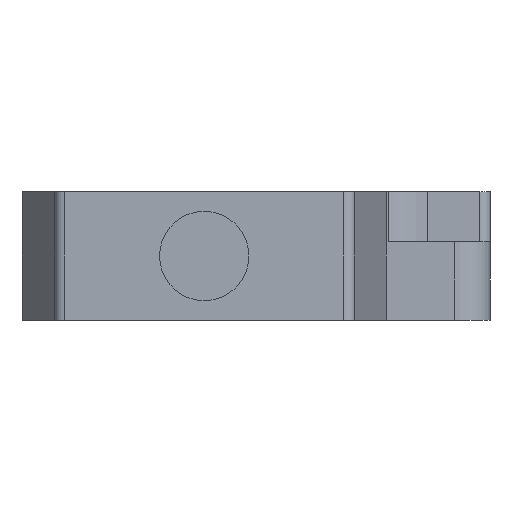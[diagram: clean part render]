
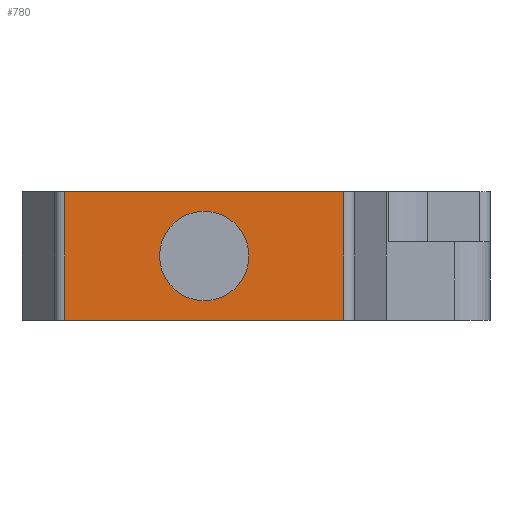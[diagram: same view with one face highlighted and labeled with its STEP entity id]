
A CAD part, front view. The second image highlights one B-rep face of the part: STEP entity #780.
In plain terms, the highlighted planar face has unit normal (0, -1, 0).
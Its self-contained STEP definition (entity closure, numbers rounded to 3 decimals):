
#17=FACE_BOUND('',#105,.T.);
#29=PLANE('',#836);
#57=FACE_OUTER_BOUND('',#104,.T.);
#104=EDGE_LOOP('',(#557,#558,#559,#560));
#105=EDGE_LOOP('',(#561));
#158=LINE('',#1152,#234);
#160=LINE('',#1158,#236);
#169=LINE('',#1190,#245);
#170=LINE('',#1191,#246);
#234=VECTOR('',#912,10.);
#236=VECTOR('',#918,10.);
#245=VECTOR('',#943,10.);
#246=VECTOR('',#944,10.);
#319=CIRCLE('',#837,1.25);
#347=VERTEX_POINT('',#1149);
#348=VERTEX_POINT('',#1151);
#350=VERTEX_POINT('',#1157);
#365=VERTEX_POINT('',#1189);
#366=VERTEX_POINT('',#1192);
#425=EDGE_CURVE('',#347,#348,#158,.T.);
#428=EDGE_CURVE('',#348,#350,#160,.T.);
#444=EDGE_CURVE('',#365,#347,#169,.T.);
#445=EDGE_CURVE('',#350,#365,#170,.T.);
#446=EDGE_CURVE('',#366,#366,#319,.T.);
#557=ORIENTED_EDGE('',*,*,#425,.F.);
#558=ORIENTED_EDGE('',*,*,#444,.F.);
#559=ORIENTED_EDGE('',*,*,#445,.F.);
#560=ORIENTED_EDGE('',*,*,#428,.F.);
#561=ORIENTED_EDGE('',*,*,#446,.T.);
#780=ADVANCED_FACE('',(#57,#17),#29,.T.);
#836=AXIS2_PLACEMENT_3D('',#1188,#941,#942);
#837=AXIS2_PLACEMENT_3D('',#1193,#945,#946);
#912=DIRECTION('',(0.,0.,-1.));
#918=DIRECTION('',(-1.,0.,0.));
#941=DIRECTION('center_axis',(0.,-1.,0.));
#942=DIRECTION('ref_axis',(1.,0.,0.));
#943=DIRECTION('',(1.,0.,0.));
#944=DIRECTION('',(0.,0.,1.));
#945=DIRECTION('center_axis',(0.,1.,0.));
#946=DIRECTION('ref_axis',(-1.,0.,0.));
#1149=CARTESIAN_POINT('',(3.907,-4.5,3.6));
#1151=CARTESIAN_POINT('',(3.907,-4.5,0.));
#1152=CARTESIAN_POINT('',(3.907,-4.5,0.));
#1157=CARTESIAN_POINT('',(-3.907,-4.5,0.));
#1158=CARTESIAN_POINT('',(4.15,-4.5,0.));
#1188=CARTESIAN_POINT('Origin',(-4.15,-4.5,0.));
#1189=CARTESIAN_POINT('',(-3.907,-4.5,3.6));
#1190=CARTESIAN_POINT('',(4.15,-4.5,3.6));
#1191=CARTESIAN_POINT('',(-3.907,-4.5,0.));
#1192=CARTESIAN_POINT('',(1.25,-4.5,1.8));
#1193=CARTESIAN_POINT('Origin',(0.,-4.5,1.8));
